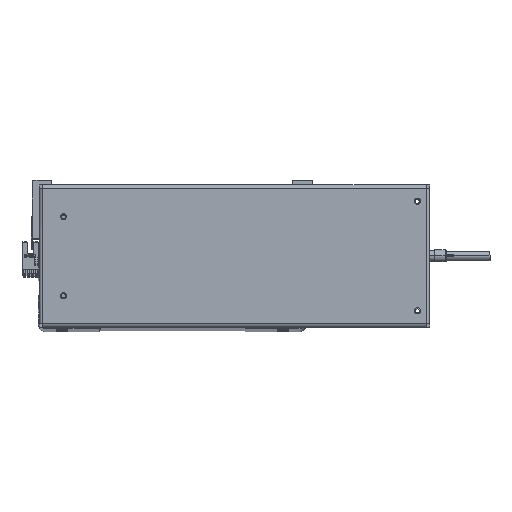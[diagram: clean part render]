
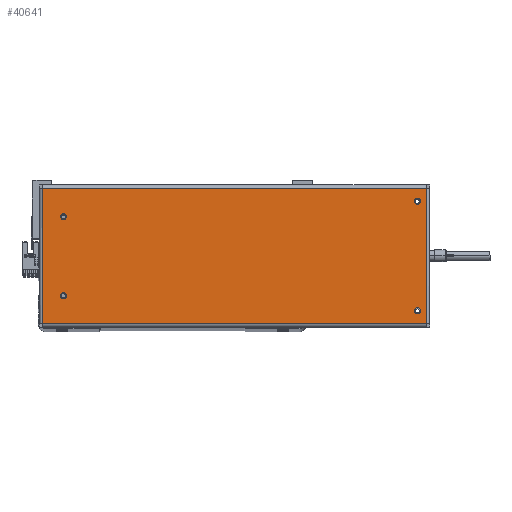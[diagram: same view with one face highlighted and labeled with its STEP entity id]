
A CAD part, top view. The second image highlights one B-rep face of the part: STEP entity #40641.
In plain terms, the highlighted planar face has unit normal (0, 0, 1).
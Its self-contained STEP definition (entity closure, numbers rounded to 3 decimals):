
#668 = VECTOR ( 'NONE', #15974, 1000. ) ;
#676 = CARTESIAN_POINT ( 'NONE',  ( 150.5, -45., 0. ) ) ;
#1141 = DIRECTION ( 'NONE',  ( 0., 0., 1. ) ) ;
#1142 = CARTESIAN_POINT ( 'NONE',  ( 150.5, 45., 0. ) ) ;
#1422 = DIRECTION ( 'NONE',  ( 0., 0., 1. ) ) ;
#1802 = CARTESIAN_POINT ( 'NONE',  ( 157.6, -55.6, 0. ) ) ;
#2161 = EDGE_CURVE ( 'NONE', #12917, #13963, #20108, .T. ) ;
#4233 = EDGE_CURVE ( 'NONE', #12279, #7054, #22927, .T. ) ;
#4869 = CARTESIAN_POINT ( 'NONE',  ( -140.5, 32.5, 0. ) ) ;
#5475 = DIRECTION ( 'NONE',  ( -1., 0., 0. ) ) ;
#6052 = EDGE_CURVE ( 'NONE', #13963, #31203, #24657, .T. ) ;
#6194 = CARTESIAN_POINT ( 'NONE',  ( -138., 32.5, 0. ) ) ;
#6478 = ORIENTED_EDGE ( 'NONE', *, *, #12411, .T. ) ;
#6630 = VECTOR ( 'NONE', #17665, 1000. ) ;
#6846 = DIRECTION ( 'NONE',  ( 0., 0., 1. ) ) ;
#7054 = VERTEX_POINT ( 'NONE', #40451 ) ;
#7074 = CARTESIAN_POINT ( 'NONE',  ( -140.5, -32.5, 0. ) ) ;
#7974 = CARTESIAN_POINT ( 'NONE',  ( 150.5, 45., 0. ) ) ;
#8008 = CIRCLE ( 'NONE', #28524, 2.5 ) ;
#8098 = DIRECTION ( 'NONE',  ( 0., 0., 1. ) ) ;
#9001 = AXIS2_PLACEMENT_3D ( 'NONE', #30014, #1141, #33255 ) ;
#12105 = EDGE_CURVE ( 'NONE', #19755, #13859, #37093, .T. ) ;
#12112 = EDGE_CURVE ( 'NONE', #30918, #32314, #19085, .T. ) ;
#12267 = VERTEX_POINT ( 'NONE', #26699 ) ;
#12279 = VERTEX_POINT ( 'NONE', #36398 ) ;
#12285 = DIRECTION ( 'NONE',  ( 1., 0., 0. ) ) ;
#12411 = EDGE_CURVE ( 'NONE', #12267, #12917, #13561, .T. ) ;
#12883 = CARTESIAN_POINT ( 'NONE',  ( -157.6, -55.6, 0. ) ) ;
#12917 = VERTEX_POINT ( 'NONE', #37748 ) ;
#13019 = CIRCLE ( 'NONE', #9001, 2.5 ) ;
#13143 = EDGE_CURVE ( 'NONE', #7054, #12279, #8008, .T. ) ;
#13213 = AXIS2_PLACEMENT_3D ( 'NONE', #29290, #6846, #35312 ) ;
#13561 = LINE ( 'NONE', #1802, #6630 ) ;
#13686 = DIRECTION ( 'NONE',  ( 0., 0., 1. ) ) ;
#13859 = VERTEX_POINT ( 'NONE', #28710 ) ;
#13963 = VERTEX_POINT ( 'NONE', #20012 ) ;
#13967 = DIRECTION ( 'NONE',  ( 1., 0., 0. ) ) ;
#15513 = CARTESIAN_POINT ( 'NONE',  ( -140.5, 32.5, 0. ) ) ;
#15783 = EDGE_CURVE ( 'NONE', #17973, #30167, #33824, .T. ) ;
#15974 = DIRECTION ( 'NONE',  ( 0., -1., 0. ) ) ;
#16343 = LINE ( 'NONE', #38546, #40892 ) ;
#17245 = EDGE_LOOP ( 'NONE', ( #33873, #34869, #6478, #36113 ) ) ;
#17442 = CARTESIAN_POINT ( 'NONE',  ( -138., -32.5, 0. ) ) ;
#17485 = EDGE_CURVE ( 'NONE', #32314, #30918, #37138, .T. ) ;
#17665 = DIRECTION ( 'NONE',  ( 0., 1., 0. ) ) ;
#17677 = AXIS2_PLACEMENT_3D ( 'NONE', #7074, #29111, #32872 ) ;
#17973 = VERTEX_POINT ( 'NONE', #28352 ) ;
#18790 = FACE_BOUND ( 'NONE', #39820, .T. ) ;
#19085 = CIRCLE ( 'NONE', #13213, 2.5 ) ;
#19755 = VERTEX_POINT ( 'NONE', #23331 ) ;
#20012 = CARTESIAN_POINT ( 'NONE',  ( -157.6, 55.6, 0. ) ) ;
#20079 = DIRECTION ( 'NONE',  ( 1., 0., 0. ) ) ;
#20108 = LINE ( 'NONE', #39502, #36136 ) ;
#20139 = AXIS2_PLACEMENT_3D ( 'NONE', #31021, #24729, #5475 ) ;
#20436 = ORIENTED_EDGE ( 'NONE', *, *, #4233, .F. ) ;
#21089 = PLANE ( 'NONE',  #20139 ) ;
#21279 = CARTESIAN_POINT ( 'NONE',  ( -157.6, 55.6, 0. ) ) ;
#21815 = FACE_OUTER_BOUND ( 'NONE', #17245, .T. ) ;
#21934 = AXIS2_PLACEMENT_3D ( 'NONE', #4869, #8098, #24112 ) ;
#22687 = ORIENTED_EDGE ( 'NONE', *, *, #38134, .F. ) ;
#22744 = DIRECTION ( 'NONE',  ( 1., 0., 0. ) ) ;
#22927 = CIRCLE ( 'NONE', #39319, 2.5 ) ;
#23331 = CARTESIAN_POINT ( 'NONE',  ( 148., -45., 0. ) ) ;
#23405 = DIRECTION ( 'NONE',  ( -1., 0., 0. ) ) ;
#24112 = DIRECTION ( 'NONE',  ( 1., 0., 0. ) ) ;
#24444 = AXIS2_PLACEMENT_3D ( 'NONE', #15513, #34797, #12285 ) ;
#24657 = LINE ( 'NONE', #21279, #668 ) ;
#24729 = DIRECTION ( 'NONE',  ( 0., 0., -1. ) ) ;
#25934 = DIRECTION ( 'NONE',  ( 0., 0., 1. ) ) ;
#26182 = DIRECTION ( 'NONE',  ( 1., 0., 0. ) ) ;
#26433 = EDGE_CURVE ( 'NONE', #31203, #12267, #16343, .T. ) ;
#26699 = CARTESIAN_POINT ( 'NONE',  ( 157.6, -55.6, 0. ) ) ;
#28352 = CARTESIAN_POINT ( 'NONE',  ( -143., 32.5, 0. ) ) ;
#28356 = EDGE_LOOP ( 'NONE', ( #20436, #38270 ) ) ;
#28524 = AXIS2_PLACEMENT_3D ( 'NONE', #1142, #1422, #13967 ) ;
#28710 = CARTESIAN_POINT ( 'NONE',  ( 153., -45., 0. ) ) ;
#29111 = DIRECTION ( 'NONE',  ( 0., 0., 1. ) ) ;
#29290 = CARTESIAN_POINT ( 'NONE',  ( -140.5, -32.5, 0. ) ) ;
#29444 = ORIENTED_EDGE ( 'NONE', *, *, #12105, .F. ) ;
#29794 = CARTESIAN_POINT ( 'NONE',  ( -143., -32.5, 0. ) ) ;
#30014 = CARTESIAN_POINT ( 'NONE',  ( 150.5, -45., 0. ) ) ;
#30167 = VERTEX_POINT ( 'NONE', #6194 ) ;
#30918 = VERTEX_POINT ( 'NONE', #29794 ) ;
#31021 = CARTESIAN_POINT ( 'NONE',  ( 157.7, 58.5, 0. ) ) ;
#31203 = VERTEX_POINT ( 'NONE', #12883 ) ;
#31308 = CIRCLE ( 'NONE', #24444, 2.5 ) ;
#31805 = FACE_BOUND ( 'NONE', #35824, .T. ) ;
#32314 = VERTEX_POINT ( 'NONE', #17442 ) ;
#32666 = EDGE_LOOP ( 'NONE', ( #22687, #29444 ) ) ;
#32872 = DIRECTION ( 'NONE',  ( 1., 0., 0. ) ) ;
#33255 = DIRECTION ( 'NONE',  ( 1., 0., 0. ) ) ;
#33308 = FACE_BOUND ( 'NONE', #28356, .T. ) ;
#33824 = CIRCLE ( 'NONE', #21934, 2.5 ) ;
#33873 = ORIENTED_EDGE ( 'NONE', *, *, #6052, .T. ) ;
#34797 = DIRECTION ( 'NONE',  ( 0., 0., 1. ) ) ;
#34869 = ORIENTED_EDGE ( 'NONE', *, *, #26433, .T. ) ;
#35312 = DIRECTION ( 'NONE',  ( 1., 0., 0. ) ) ;
#35790 = FACE_BOUND ( 'NONE', #32666, .T. ) ;
#35824 = EDGE_LOOP ( 'NONE', ( #40035, #41010 ) ) ;
#35937 = ORIENTED_EDGE ( 'NONE', *, *, #17485, .F. ) ;
#36113 = ORIENTED_EDGE ( 'NONE', *, *, #2161, .T. ) ;
#36136 = VECTOR ( 'NONE', #23405, 1000. ) ;
#36398 = CARTESIAN_POINT ( 'NONE',  ( 153., 45., 0. ) ) ;
#37093 = CIRCLE ( 'NONE', #40286, 2.5 ) ;
#37138 = CIRCLE ( 'NONE', #17677, 2.5 ) ;
#37748 = CARTESIAN_POINT ( 'NONE',  ( 157.6, 55.6, 0. ) ) ;
#38134 = EDGE_CURVE ( 'NONE', #13859, #19755, #13019, .T. ) ;
#38270 = ORIENTED_EDGE ( 'NONE', *, *, #13143, .F. ) ;
#38546 = CARTESIAN_POINT ( 'NONE',  ( -157.7, -55.6, 0. ) ) ;
#38827 = ORIENTED_EDGE ( 'NONE', *, *, #12112, .F. ) ;
#39319 = AXIS2_PLACEMENT_3D ( 'NONE', #7974, #13686, #20079 ) ;
#39502 = CARTESIAN_POINT ( 'NONE',  ( 157.7, 55.6, 0. ) ) ;
#39820 = EDGE_LOOP ( 'NONE', ( #35937, #38827 ) ) ;
#40035 = ORIENTED_EDGE ( 'NONE', *, *, #40722, .F. ) ;
#40286 = AXIS2_PLACEMENT_3D ( 'NONE', #676, #25934, #26182 ) ;
#40451 = CARTESIAN_POINT ( 'NONE',  ( 148., 45., 0. ) ) ;
#40641 = ADVANCED_FACE ( 'NONE', ( #18790, #31805, #35790, #33308, #21815 ), #21089, .F. ) ;
#40722 = EDGE_CURVE ( 'NONE', #30167, #17973, #31308, .T. ) ;
#40892 = VECTOR ( 'NONE', #22744, 1000. ) ;
#41010 = ORIENTED_EDGE ( 'NONE', *, *, #15783, .F. ) ;
